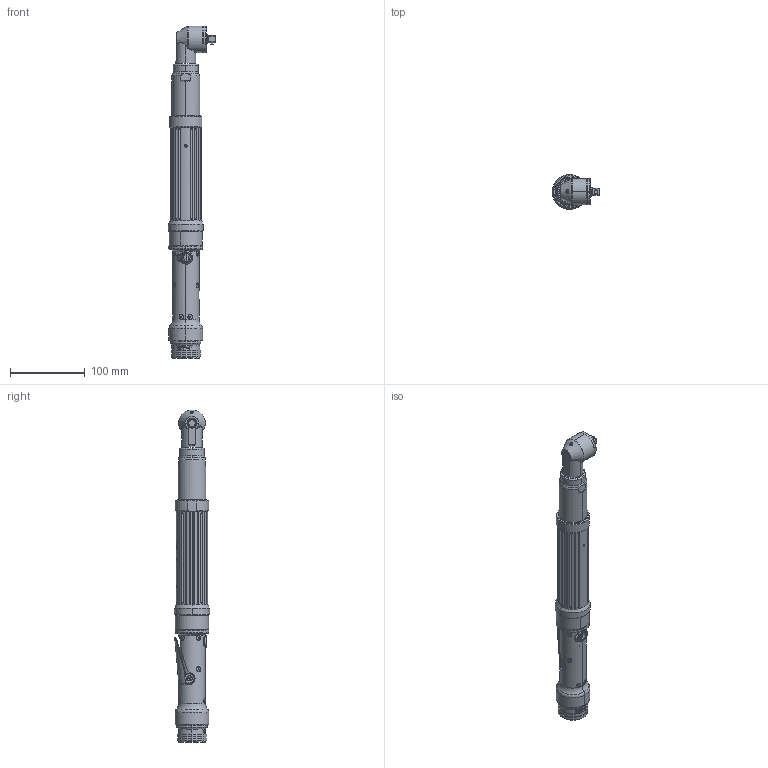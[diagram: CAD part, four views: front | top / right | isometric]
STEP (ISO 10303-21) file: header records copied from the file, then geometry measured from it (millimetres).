
FILE_DESCRIPTION (( 'STEP AP214' ), '1' );
FILE_NAME ('AEN33042C.STEP', '2016-04-15T16:00:11', ( 'AIMCO' ), ( '' ), 'SwSTEP 2.0', 'SolidWorks 2016', '' );
FILE_SCHEMA (( 'AUTOMOTIVE_DESIGN' ));
Length unit declared in the file: inch
Products named in the file (1): AEN33042C
Bounding box: 63.58 x 46.99 x 445.17 mm (x, y, z)
Surface area: 85020.5 mm2 (no closed solid volume)
Topology: 0 solids, 86 shells, 918 faces, 3251 edges, 2264 vertices
Faces by surface type: cylinder 218, plane 197, cone 161, bspline 156, torus 140, sphere 46
Entity records: 66725 total; most frequent: CARTESIAN_POINT 30112, ORIENTED_EDGE 4844, DIRECTION 4552, EDGE_CURVE 3167, VERTEX_POINT 2224, AXIS2_PLACEMENT_3D 1825, B_SPLINE_CURVE_WITH_KNOTS 1173, CIRCLE 1062
